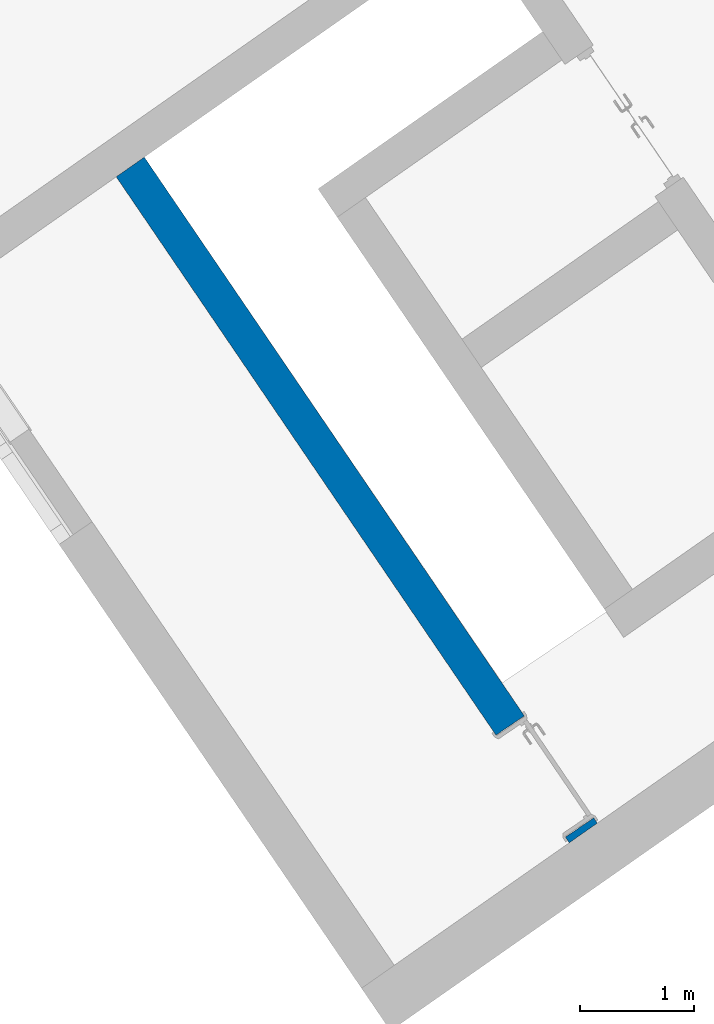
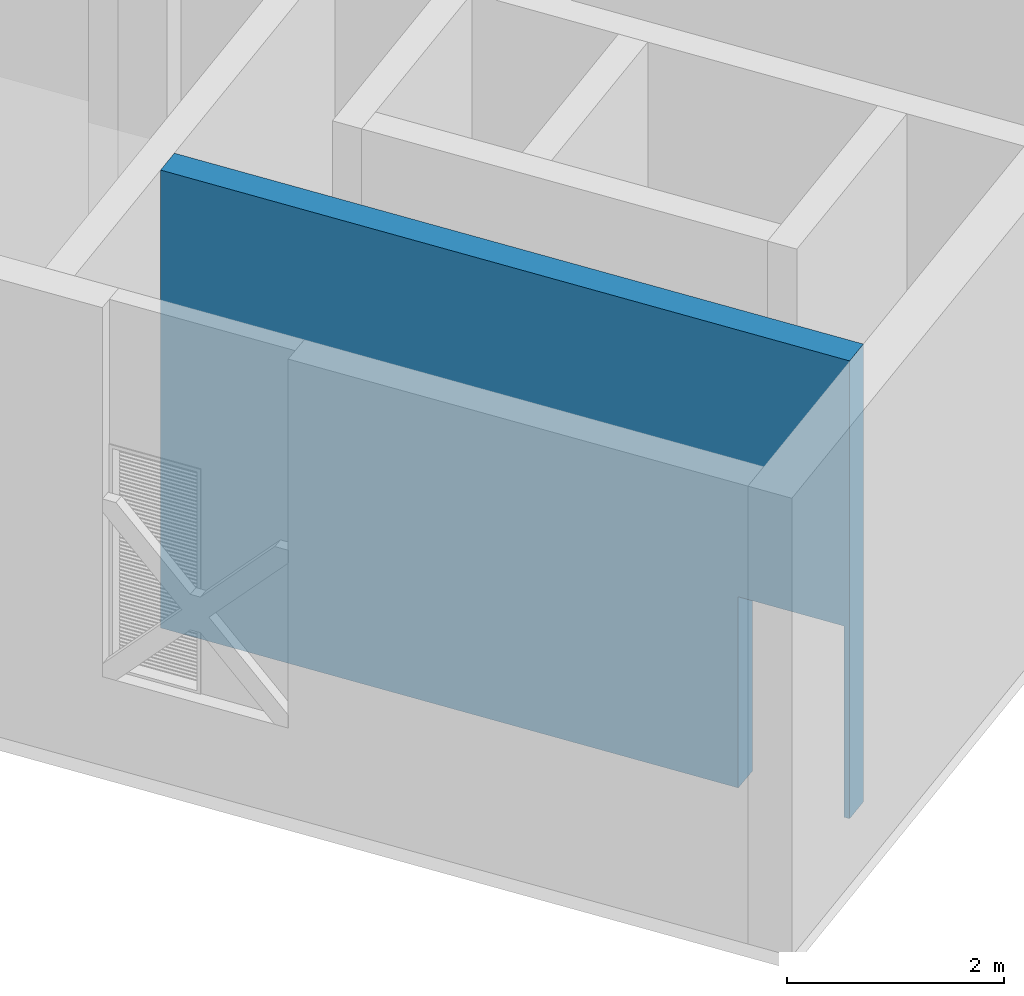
# One storey, part 59 of 157: 1 wall, 1 opening.
"""IFC2X3 building model written with IfcOpenShell, lengths in millimetres."""

from ifc_helpers import new_model, entity, si_unit, converted_unit, derived_unit, direction, frame, frame_2d, origin, place, context, subcontext, project, spatial, polyline, rectangle, outline, extrude, material, layer, layer_set, layer_usage, type_object, element, save


model = new_model("IFC2X3")

# Units and contexts
model_context = context("Model", 3, precision=0.01, world=origin(), true_north=direction((6.123031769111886e-17, 1.0)))
body_context = subcontext(model_context, "Body", "Model", "MODEL_VIEW")
ifc_project = project(units=[si_unit("LENGTHUNIT", "METRE", prefix="MILLI"), si_unit("AREAUNIT", "SQUARE_METRE"), si_unit("VOLUMEUNIT", "CUBIC_METRE"), converted_unit("PLANEANGLEUNIT", "DEGREE", entity("IfcRatioMeasure", 0.017453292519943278), si_unit("PLANEANGLEUNIT", "RADIAN"), dimensions=[0, 0, 0, 0, 0, 0, 0]), si_unit("MASSUNIT", "GRAM", prefix="KILO"), derived_unit("MASSDENSITYUNIT", [(si_unit("MASSUNIT", "GRAM", prefix="KILO"), 1), (si_unit("LENGTHUNIT", "METRE"), -3)]), derived_unit("MOMENTOFINERTIAUNIT", [(si_unit("LENGTHUNIT", "METRE"), 4)]), si_unit("TIMEUNIT", "SECOND"), si_unit("FREQUENCYUNIT", "HERTZ"), si_unit("THERMODYNAMICTEMPERATUREUNIT", "DEGREE_CELSIUS"), derived_unit("THERMALTRANSMITTANCEUNIT", [(si_unit("MASSUNIT", "GRAM", prefix="KILO"), 1), (si_unit("THERMODYNAMICTEMPERATUREUNIT", "KELVIN"), -1), (si_unit("TIMEUNIT", "SECOND"), -3)]), derived_unit("THERMALCONDUCTANCEUNIT", [(si_unit("MASSUNIT", "GRAM", prefix="KILO"), 1), (si_unit("LENGTHUNIT", "METRE"), 1), (si_unit("THERMODYNAMICTEMPERATUREUNIT", "KELVIN"), -1), (si_unit("TIMEUNIT", "SECOND"), -3)]), derived_unit("VOLUMETRICFLOWRATEUNIT", [(si_unit("LENGTHUNIT", "METRE"), 3), (si_unit("TIMEUNIT", "SECOND"), -1)]), derived_unit("MASSFLOWRATEUNIT", [(si_unit("MASSUNIT", "GRAM", prefix="KILO"), 1), (si_unit("TIMEUNIT", "SECOND"), -1)]), derived_unit("ROTATIONALFREQUENCYUNIT", [(si_unit("TIMEUNIT", "SECOND"), -1)]), si_unit("ELECTRICCURRENTUNIT", "AMPERE"), si_unit("ELECTRICVOLTAGEUNIT", "VOLT"), si_unit("POWERUNIT", "WATT"), converted_unit("FORCEUNIT", "KIP", entity("IfcRatioMeasure", 2.088543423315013e-05), si_unit("FORCEUNIT", "NEWTON"), dimensions=[1, 1, -2, 0, 0, 0, 0]), si_unit("ILLUMINANCEUNIT", "LUX"), si_unit("LUMINOUSFLUXUNIT", "LUMEN"), si_unit("LUMINOUSINTENSITYUNIT", "CANDELA"), derived_unit("USERDEFINED", [(si_unit("MASSUNIT", "GRAM", prefix="KILO"), -1), (si_unit("LENGTHUNIT", "METRE"), -2), (si_unit("TIMEUNIT", "SECOND"), 3), (si_unit("LUMINOUSFLUXUNIT", "LUMEN"), 1)]), derived_unit("USERDEFINED", [(si_unit("MASSUNIT", "GRAM", prefix="KILO"), 1), (si_unit("LENGTHUNIT", "METRE"), 3), (si_unit("TIMEUNIT", "SECOND"), -3), (si_unit("ELECTRICCURRENTUNIT", "AMPERE"), -2)]), derived_unit("USERDEFINED", [(si_unit("LENGTHUNIT", "METRE"), 2), (si_unit("TIMEUNIT", "SECOND"), -2)]), derived_unit("SOUNDPOWERUNIT", [(si_unit("MASSUNIT", "GRAM", prefix="KILO"), 1), (si_unit("LENGTHUNIT", "METRE"), 2), (si_unit("TIMEUNIT", "SECOND"), -3)]), derived_unit("SOUNDPRESSUREUNIT", [(si_unit("MASSUNIT", "GRAM", prefix="KILO"), 1), (si_unit("LENGTHUNIT", "METRE"), -1), (si_unit("TIMEUNIT", "SECOND"), -2)]), derived_unit("LINEARVELOCITYUNIT", [(si_unit("LENGTHUNIT", "METRE"), 1), (si_unit("TIMEUNIT", "SECOND"), -1)]), si_unit("PRESSUREUNIT", "PASCAL"), derived_unit("USERDEFINED", [(si_unit("LENGTHUNIT", "METRE"), -2), (si_unit("MASSUNIT", "GRAM", prefix="KILO"), 1), (si_unit("TIMEUNIT", "SECOND"), -2)]), derived_unit("LINEARFORCEUNIT", [(si_unit("MASSUNIT", "GRAM", prefix="KILO"), 1), (si_unit("LENGTHUNIT", "METRE"), 1), (si_unit("TIMEUNIT", "SECOND"), -2), (si_unit("LENGTHUNIT", "METRE"), -1)]), derived_unit("PLANARFORCEUNIT", [(si_unit("MASSUNIT", "GRAM", prefix="KILO"), 1), (si_unit("LENGTHUNIT", "METRE"), 1), (si_unit("TIMEUNIT", "SECOND"), -2), (si_unit("LENGTHUNIT", "METRE"), -2)]), derived_unit("SPECIFICHEATCAPACITYUNIT", [(si_unit("LENGTHUNIT", "METRE"), 2), (si_unit("TIMEUNIT", "SECOND"), -2), (si_unit("THERMODYNAMICTEMPERATUREUNIT", "KELVIN"), -1)]), derived_unit("VAPORPERMEABILITYUNIT", [(si_unit("TIMEUNIT", "SECOND"), 1), (si_unit("LENGTHUNIT", "METRE"), -1)]), derived_unit("DYNAMICVISCOSITYUNIT", [(si_unit("MASSUNIT", "GRAM", prefix="KILO"), 1), (si_unit("LENGTHUNIT", "METRE"), -1), (si_unit("TIMEUNIT", "SECOND"), -1)]), derived_unit("THERMALEXPANSIONCOEFFICIENTUNIT", [(si_unit("THERMODYNAMICTEMPERATUREUNIT", "KELVIN"), -1)])], contexts=[model_context])

# Site, building, storey
site_placement = place(None, frame((0.0, 0.0, 0.0), z_axis=(0.0, 0.0, 1.0), x_axis=(0.8191520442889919, 0.5735764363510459, 0.0)))
site = spatial("IfcSite", under=ifc_project, at=site_placement, Name="Default", CompositionType="ELEMENT")
building_placement = place(site_placement, origin())
building = spatial("IfcBuilding", under=site, at=building_placement, CompositionType="ELEMENT")
storey_placement = place(building_placement, origin())
storey = spatial("IfcBuildingStorey", under=building, at=storey_placement, Name="1.EG +0.00", CompositionType="ELEMENT", Elevation=-4.331468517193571e-12)

# Wall, opening
ifc_material = material(Name="Analytical Wall Surface_CJC")
ifc_layer = layer(ifc_material, 300.0)
ifc_layer_set = layer_set([ifc_layer], Name="Basic Wall:Wand_Innen_30")
ifc_layer_usage = layer_usage(ifc_layer_set, "AXIS2", "NEGATIVE", 150.0)
wall_type = type_object("IfcWallType", Name="Basic Wall:Wand_Innen_30", PredefinedType="STANDARD", material=ifc_layer_set)
wall_placement = place(storey_placement, frame((-221437.58621234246, 59573.39597265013, 0.0), z_axis=(0.0, 0.0, 1.0), x_axis=(-0.01358038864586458, -0.9999077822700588, 0.0)))
wall = element("IfcWallStandardCase", 1, at=wall_placement, inside=storey, type_object=wall_type, material=ifc_layer_usage, Name="Basic Wall:Wand_Innen_30", ObjectType="Basic Wall:Wand_Innen_30", context=body_context, shape_type="SweptSolid", body=[
    extrude(outline(polyline([(4.074492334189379, -150.0), (7054.724687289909, -150.0), (7050.650194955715, 150.0), (0.0, 150.0), (4.074492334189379, -150.0)])), origin(), (0.0, 0.0, 1.0), 5150.000000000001),
])
opening_placement = place(wall_placement, frame((5914.5977374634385, -150.0, 0.0)))
element("IfcOpeningElement", 2, at=opening_placement, cuts=wall, Name="Doors_IntSgl:100x210:1", ObjectType="Opening", context=body_context, shape_type="SweptSolid", body=[
    extrude(rectangle(XDim=2150.000000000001, YDim=1079.9999999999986, at=frame_2d((1075.0000000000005, 539.9999999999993), x_axis=(1.0, 0.0))), frame((0.0, 0.0, 0.0), z_axis=(0.0, 1.0, 0.0), x_axis=(0.0, 0.0, 1.0)), (0.0, 0.0, 1.0), 299.9999999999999),
])

save(model, "model.ifc")
